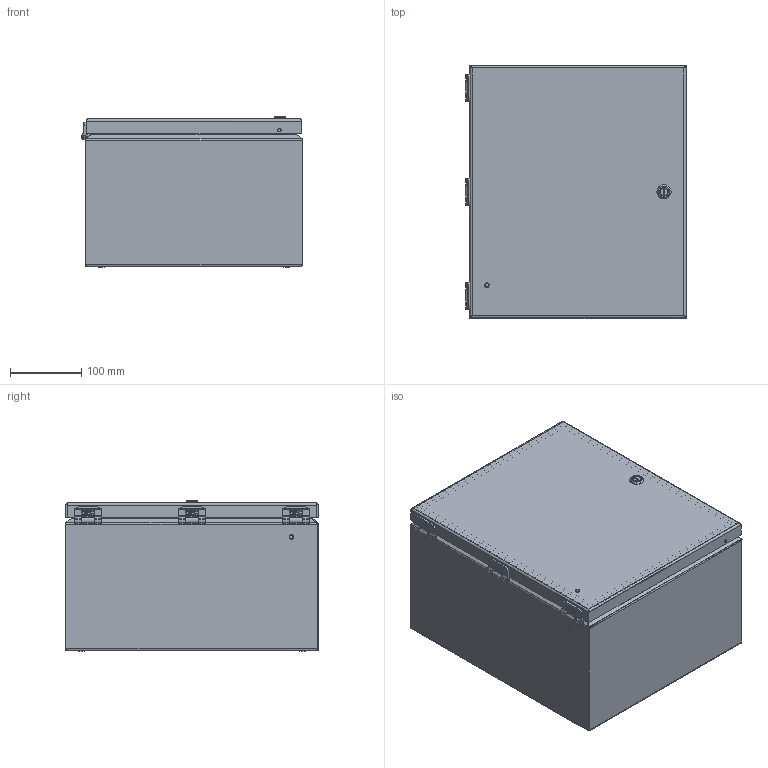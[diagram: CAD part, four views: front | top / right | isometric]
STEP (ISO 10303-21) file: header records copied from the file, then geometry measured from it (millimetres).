
FILE_DESCRIPTION((''),'2;1');
FILE_NAME('MODEL-058_ASM','2022-05-17T07:30:19',('johnh'),('SAGINAW CONTROL & ENGINEERING'),'CREO PARAMETRIC BY PTC INC, 2021284','CREO PARAMETRIC BY PTC INC, 2021284','');
FILE_SCHEMA(('AUTOMOTIVE_DESIGN { 1 0 10303 214 1 1 1 1 }'));
Length unit declared in the file: inch
Products named in the file (25): MODEL-058-BDY; MODEL-058-DR; 112643-BOX-LEAF; 112643-BOX-LEAF-STUD; 112643-BOX_ASM; 112643-DOOR-LEAF; 112643-DOOR-LEAF-STUD; 112643-DOOR_ASM; 112643-PIN; 112643_ASM; 113152; 100063; 112987_SHAFT; 112987_INSERT; 112984; 112987_SCREW; 112987_NUT; 112987_ASM; 100009; MODEL-058-GSKT; 120706; CH-ELJ_SUBPANEL; 102479; CH-ELJ_SUBPANEL-SUBASSEMBLY_ASM; MODEL-058_ASM
Assembly tree (38 placements, depth 4):
  MODEL-058_ASM
    MODEL-058-BDY
    MODEL-058-DR
    112643_ASM  x3
      112643-BOX_ASM
        112643-BOX-LEAF
        112643-BOX-LEAF-STUD
      112643-DOOR_ASM
        112643-DOOR-LEAF
        112643-DOOR-LEAF-STUD
      112643-PIN
    113152  x6
    100063  x2
    112987_ASM
      112987_SHAFT
      112987_INSERT
      112984
      112987_SCREW
      112987_NUT
    100009  x4
    MODEL-058-GSKT
    120706
    CH-ELJ_SUBPANEL-SUBASSEMBLY_ASM
      CH-ELJ_SUBPANEL
      102479  x4
Bounding box: 310.4 x 355.6 x 210.71 mm (x, y, z)
Volume: 1021840.6 mm3; surface area: 1263400.7 mm2
Topology: 41 solids, 44 shells, 4013 faces, 10313 edges, 6358 vertices
Faces by surface type: plane 1330, bspline 1170, cylinder 1158, cone 177, torus 158, sphere 20
Entity records: 101884 total; most frequent: CARTESIAN_POINT 54525, ORIENTED_EDGE 7062, DIRECTION 6042, PRESENTATION_STYLE_ASSIGNMENT 3700, STYLED_ITEM 3700, EDGE_CURVE 3531, CURVE_STYLE 3441, AXIS2_PLACEMENT_3D 2235
